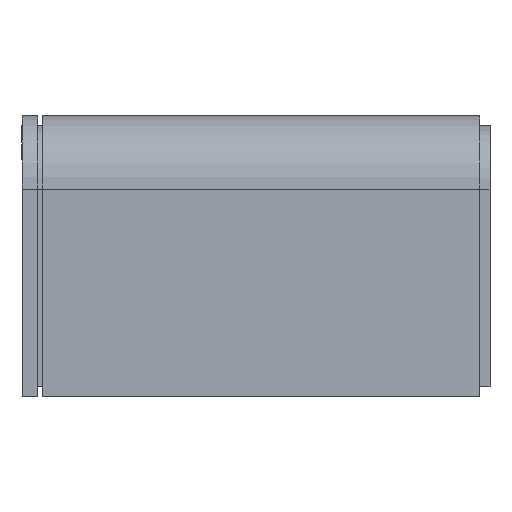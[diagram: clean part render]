
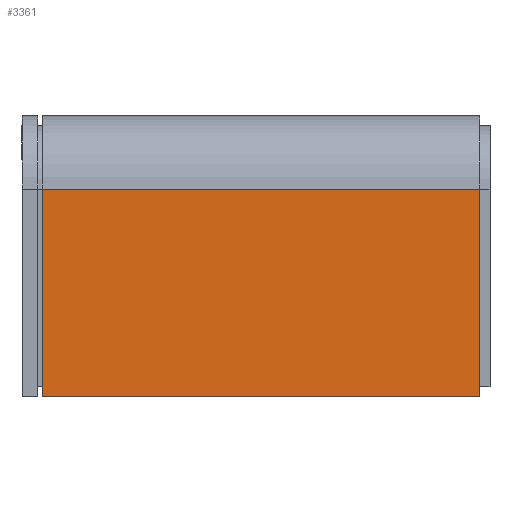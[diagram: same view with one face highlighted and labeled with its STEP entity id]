
A CAD part, left-side view. The second image highlights one B-rep face of the part: STEP entity #3361.
In plain terms, the highlighted planar face has unit normal (-1, 0, 0).
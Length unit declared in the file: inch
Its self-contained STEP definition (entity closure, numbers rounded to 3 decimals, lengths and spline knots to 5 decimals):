
#543=PLANE('',#3700);
#709=FACE_OUTER_BOUND('',#887,.T.);
#887=EDGE_LOOP('',(#2627,#2628,#2629,#2630));
#1076=LINE('',#4845,#1450);
#1081=LINE('',#4857,#1455);
#1085=LINE('',#4866,#1459);
#1088=LINE('',#4872,#1462);
#1450=VECTOR('',#3991,0.3937);
#1455=VECTOR('',#4000,0.3937);
#1459=VECTOR('',#4008,0.3937);
#1462=VECTOR('',#4015,0.3937);
#1858=VERTEX_POINT('',#4841);
#1860=VERTEX_POINT('',#4844);
#1865=VERTEX_POINT('',#4856);
#1868=VERTEX_POINT('',#4864);
#2143=EDGE_CURVE('',#1860,#1858,#1076,.T.);
#2149=EDGE_CURVE('',#1865,#1860,#1081,.T.);
#2154=EDGE_CURVE('',#1868,#1858,#1085,.T.);
#2157=EDGE_CURVE('',#1868,#1865,#1088,.T.);
#2627=ORIENTED_EDGE('',*,*,#2143,.T.);
#2628=ORIENTED_EDGE('',*,*,#2154,.F.);
#2629=ORIENTED_EDGE('',*,*,#2157,.T.);
#2630=ORIENTED_EDGE('',*,*,#2149,.T.);
#3361=ADVANCED_FACE('',(#709),#543,.T.);
#3700=AXIS2_PLACEMENT_3D('',#4883,#4028,#4029);
#3991=DIRECTION('',(0.,0.,1.));
#4000=DIRECTION('',(0.,-1.,0.));
#4008=DIRECTION('',(0.,-1.,0.));
#4015=DIRECTION('',(0.,0.,-1.));
#4028=DIRECTION('center_axis',(-1.,0.,0.));
#4029=DIRECTION('ref_axis',(0.,0.,-1.));
#4841=CARTESIAN_POINT('',(0.,-33.0625,-5.5));
#4844=CARTESIAN_POINT('',(0.,-33.0625,-21.));
#4845=CARTESIAN_POINT('',(0.,-33.0625,-13.25));
#4856=CARTESIAN_POINT('',(0.,-0.375,-21.));
#4857=CARTESIAN_POINT('',(0.,0.,-21.));
#4864=CARTESIAN_POINT('',(0.,-0.375,-5.5));
#4866=CARTESIAN_POINT('',(0.,0.,-5.5));
#4872=CARTESIAN_POINT('',(0.,-0.375,-2.75));
#4883=CARTESIAN_POINT('Origin',(0.,0.,-5.5));
